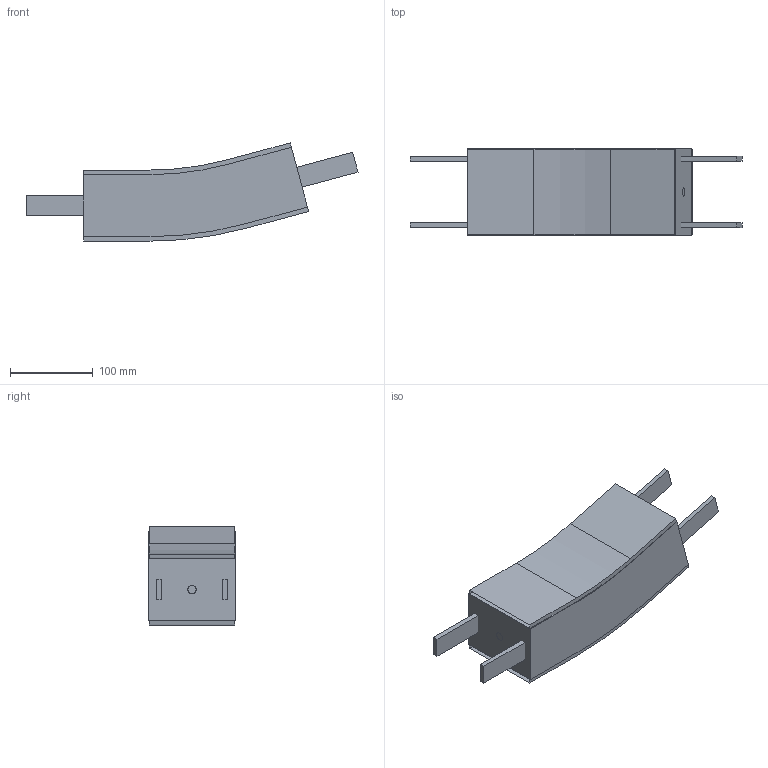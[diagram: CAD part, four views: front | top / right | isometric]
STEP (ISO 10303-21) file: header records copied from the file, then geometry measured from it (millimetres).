
FILE_DESCRIPTION(/* description */ ('Vertikaler Gleitbogen, 15°, R400'),/* implementation_level */ '2;1');
FILE_NAME(/* name */ 'T:\vdz0\Step Daten Website\modulflex FH-System\Vertikale Gleitbögen\FHBV 15R400_44028.stp',/* time_stamp */ '2024-09-03T14:29:56+02:00',/* author */ ('lzb0'),/* organization */ ('modular automation GmbH'),/* preprocessor_version */ 'ST-DEVELOPER v18.1',/* originating_system */ 'Autodesk Inventor 2021',/* authorisation */ '');
FILE_SCHEMA (('AUTOMOTIVE_DESIGN { 1 0 10303 214 3 1 1 }'));
Length unit declared in the file: millimetre
Products named in the file (1): FHBV 15R400
Bounding box: 401.65 x 105 x 118.87 mm (x, y, z)
Volume: 2168668.1 mm3; surface area: 262485.8 mm2
Topology: 5 solids, 9 shells, 52 faces, 126 edges, 84 vertices
Faces by surface type: plane 44, cylinder 8
Full cylindrical faces by diameter (mm): 10 x2
Entity records: 1598 total; most frequent: CARTESIAN_POINT 270, DIRECTION 250, ORIENTED_EDGE 232, EDGE_CURVE 126, LINE 110, VECTOR 110, VERTEX_POINT 84, AXIS2_PLACEMENT_3D 70
